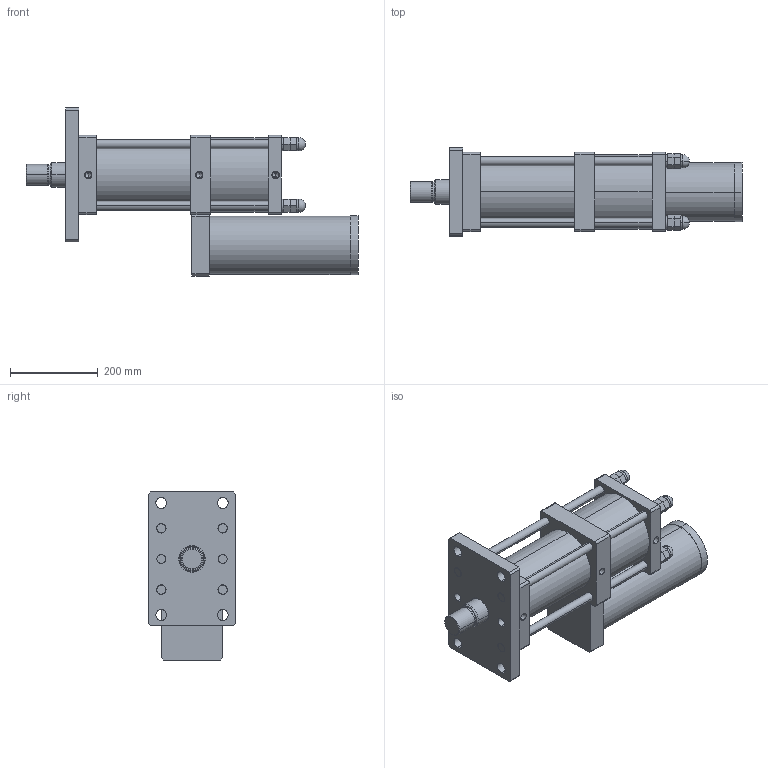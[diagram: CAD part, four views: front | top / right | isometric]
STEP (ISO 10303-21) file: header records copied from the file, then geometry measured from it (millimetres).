
FILE_DESCRIPTION (( 'STEP AP203' ), '1' );
FILE_NAME ('MPT-125-150-5-15T.STEP', '2016-03-12T01:04:52', ( 'WIN' ), ( '' ), 'SwSTEP 2.0', 'SolidWorks 2014', '' );
FILE_SCHEMA (( 'CONFIG_CONTROL_DESIGN' ));
Length unit declared in the file: millimetre
Products named in the file (1): MPT-125-150-5-15T
Bounding box: 755.5 x 200 x 382.5 mm (x, y, z)
Volume: 14192762.7 mm3; surface area: 1168885.7 mm2
Topology: 17 solids, 17 shells, 320 faces, 732 edges, 458 vertices
Faces by surface type: plane 154, cylinder 124, cone 30, sphere 8, torus 4
Entity records: 8963 total; most frequent: DIRECTION 1652, CARTESIAN_POINT 1479, ORIENTED_EDGE 1416, EDGE_CURVE 708, AXIS2_PLACEMENT_3D 623, VERTEX_POINT 450, VECTOR 406, LINE 406
